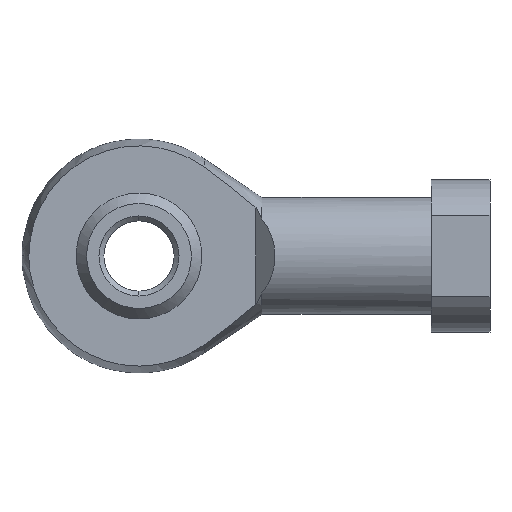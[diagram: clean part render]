
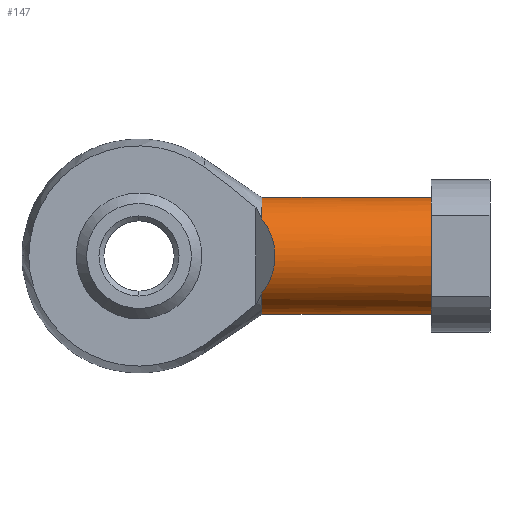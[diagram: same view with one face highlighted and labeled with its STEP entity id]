
A CAD part, front view. The second image highlights one B-rep face of the part: STEP entity #147.
In plain terms, the highlighted cylindrical face has radius 5 mm (diameter 10 mm), a partial arc.
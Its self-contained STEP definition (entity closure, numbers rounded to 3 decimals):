
#6 = DIRECTION ( 'NONE',  ( -1., 0., 0. ) ) ;
#11 = CARTESIAN_POINT ( 'NONE',  ( 25., 0., 5. ) ) ;
#19 = CARTESIAN_POINT ( 'NONE',  ( 10.5, 0., 0. ) ) ;
#61 = CARTESIAN_POINT ( 'NONE',  ( 25., 0., -5. ) ) ;
#79 = ORIENTED_EDGE ( 'NONE', *, *, #267, .T. ) ;
#126 = FACE_OUTER_BOUND ( 'NONE', #462, .T. ) ;
#134 = AXIS2_PLACEMENT_3D ( 'NONE', #672, #910, #1169 ) ;
#145 = CIRCLE ( 'NONE', #646, 5. ) ;
#147 = ADVANCED_FACE ( 'NONE', ( #126 ), #683, .T. ) ;
#195 = VERTEX_POINT ( 'NONE', #942 ) ;
#215 = LINE ( 'NONE', #943, #828 ) ;
#229 = AXIS2_PLACEMENT_3D ( 'NONE', #583, #6, #1404 ) ;
#233 = EDGE_CURVE ( 'NONE', #1145, #407, #1440, .T. ) ;
#267 = EDGE_CURVE ( 'NONE', #195, #395, #145, .T. ) ;
#299 = ORIENTED_EDGE ( 'NONE', *, *, #701, .T. ) ;
#311 = EDGE_CURVE ( 'NONE', #894, #195, #557, .T. ) ;
#313 = VERTEX_POINT ( 'NONE', #61 ) ;
#384 = CARTESIAN_POINT ( 'NONE',  ( 12.066, -5.441, 1.239 ) ) ;
#395 = VERTEX_POINT ( 'NONE', #756 ) ;
#407 = VERTEX_POINT ( 'NONE', #547 ) ;
#443 = ORIENTED_EDGE ( 'NONE', *, *, #967, .F. ) ;
#462 = EDGE_LOOP ( 'NONE', ( #443, #1230, #1148, #79, #299, #604 ) ) ;
#471 = DIRECTION ( 'NONE',  ( -1., 0., 0. ) ) ;
#509 = DIRECTION ( 'NONE',  ( 1., 0., 0. ) ) ;
#527 = EDGE_CURVE ( 'NONE', #313, #894, #867, .T. ) ;
#547 = CARTESIAN_POINT ( 'NONE',  ( 10.5, 0., -5. ) ) ;
#557 = LINE ( 'NONE', #959, #1474 ) ;
#583 = CARTESIAN_POINT ( 'NONE',  ( 17.75, 0., 0. ) ) ;
#604 = ORIENTED_EDGE ( 'NONE', *, *, #233, .T. ) ;
#620 = CARTESIAN_POINT ( 'NONE',  ( 10.5, -3.875, -3.16 ) ) ;
#646 = AXIS2_PLACEMENT_3D ( 'NONE', #712, #847, #726 ) ;
#672 = CARTESIAN_POINT ( 'NONE',  ( 25., 0., 0. ) ) ;
#683 = CYLINDRICAL_SURFACE ( 'NONE', #229, 5. ) ;
#701 = EDGE_CURVE ( 'NONE', #395, #1145, #1042, .T. ) ;
#712 = CARTESIAN_POINT ( 'NONE',  ( 10.5, 0., 0. ) ) ;
#726 = DIRECTION ( 'NONE',  ( 0., 0., 1. ) ) ;
#756 = CARTESIAN_POINT ( 'NONE',  ( 10.5, -3.875, 3.16 ) ) ;
#828 = VECTOR ( 'NONE', #471, 1000. ) ;
#833 = CARTESIAN_POINT ( 'NONE',  ( 10.5, -3.875, -3.16 ) ) ;
#843 = DIRECTION ( 'NONE',  ( 0., 0., 1. ) ) ;
#847 = DIRECTION ( 'NONE',  ( 1., 0., 0. ) ) ;
#867 = CIRCLE ( 'NONE', #134, 5. ) ;
#894 = VERTEX_POINT ( 'NONE', #11 ) ;
#910 = DIRECTION ( 'NONE',  ( -1., 0., 0. ) ) ;
#942 = CARTESIAN_POINT ( 'NONE',  ( 10.5, 0., 5. ) ) ;
#943 = CARTESIAN_POINT ( 'NONE',  ( 17.75, 0., -5. ) ) ;
#959 = CARTESIAN_POINT ( 'NONE',  ( 17.75, 0., 5. ) ) ;
#967 = EDGE_CURVE ( 'NONE', #313, #407, #215, .T. ) ;
#1042 =( BOUNDED_CURVE ( )  B_SPLINE_CURVE ( 3, ( #1202, #384, #1106, #620 ),
 .UNSPECIFIED., .F., .F. ) 
 B_SPLINE_CURVE_WITH_KNOTS ( ( 4, 4 ),
 ( 2.458, 3.826 ),
 .UNSPECIFIED. ) 
 CURVE ( )  GEOMETRIC_REPRESENTATION_ITEM ( )  RATIONAL_B_SPLINE_CURVE ( ( 1., 0.85, 0.85, 1. ) ) 
 REPRESENTATION_ITEM ( '' )  );
#1046 = AXIS2_PLACEMENT_3D ( 'NONE', #19, #509, #843 ) ;
#1106 = CARTESIAN_POINT ( 'NONE',  ( 12.066, -5.441, -1.239 ) ) ;
#1145 = VERTEX_POINT ( 'NONE', #833 ) ;
#1148 = ORIENTED_EDGE ( 'NONE', *, *, #311, .T. ) ;
#1169 = DIRECTION ( 'NONE',  ( 0., 0., 1. ) ) ;
#1202 = CARTESIAN_POINT ( 'NONE',  ( 10.5, -3.875, 3.16 ) ) ;
#1230 = ORIENTED_EDGE ( 'NONE', *, *, #527, .T. ) ;
#1327 = DIRECTION ( 'NONE',  ( -1., 0., 0. ) ) ;
#1404 = DIRECTION ( 'NONE',  ( 0., 0., 1. ) ) ;
#1440 = CIRCLE ( 'NONE', #1046, 5. ) ;
#1474 = VECTOR ( 'NONE', #1327, 1000. ) ;
